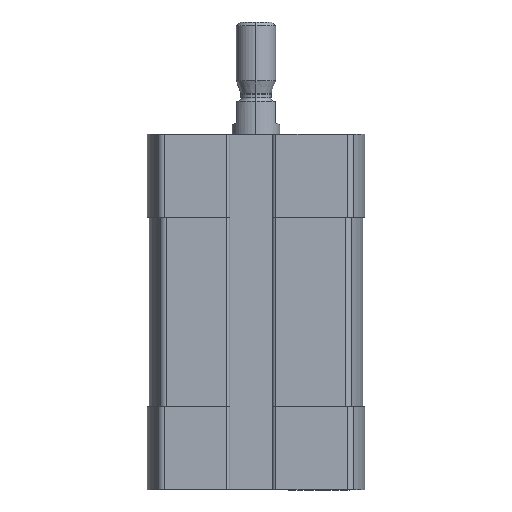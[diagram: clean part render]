
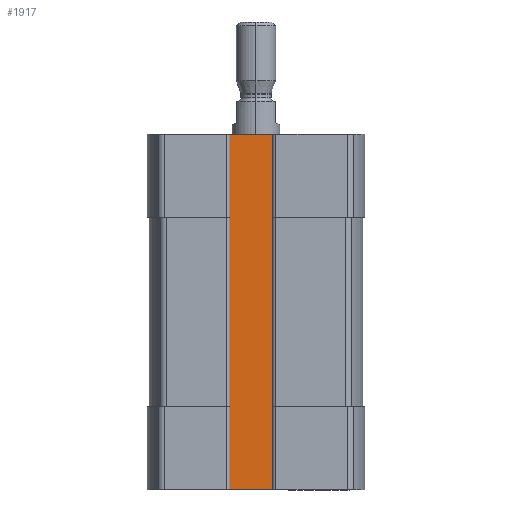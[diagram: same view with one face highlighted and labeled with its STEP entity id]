
A CAD part, left-side view. The second image highlights one B-rep face of the part: STEP entity #1917.
In plain terms, the highlighted planar face has unit normal (-1, 0, 0).
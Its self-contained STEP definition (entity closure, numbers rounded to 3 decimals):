
#175 = LINE ( 'NONE', #5934, #2240 ) ;
#192 = EDGE_CURVE ( 'NONE', #6601, #11141, #7257, .T. ) ;
#326 = DIRECTION ( 'NONE',  ( -1., 0., 0. ) ) ;
#640 = FACE_OUTER_BOUND ( 'NONE', #1640, .T. ) ;
#1255 = ORIENTED_EDGE ( 'NONE', *, *, #2703, .T. ) ;
#1640 = EDGE_LOOP ( 'NONE', ( #6203, #1255, #3264, #4898 ) ) ;
#1917 = ADVANCED_FACE ( 'NONE', ( #640 ), #10102, .T. ) ;
#2059 = CARTESIAN_POINT ( 'NONE',  ( -8.3, 3.6, -45. ) ) ;
#2240 = VECTOR ( 'NONE', #10429, 1000. ) ;
#2416 = DIRECTION ( 'NONE',  ( 0., -1., 0. ) ) ;
#2703 = EDGE_CURVE ( 'NONE', #11141, #10928, #175, .T. ) ;
#2894 = DIRECTION ( 'NONE',  ( 0., -1., 0. ) ) ;
#3207 = CARTESIAN_POINT ( 'NONE',  ( -8.3, -2.4, -45. ) ) ;
#3264 = ORIENTED_EDGE ( 'NONE', *, *, #5054, .F. ) ;
#4893 = VECTOR ( 'NONE', #2416, 1000. ) ;
#4898 = ORIENTED_EDGE ( 'NONE', *, *, #10084, .T. ) ;
#5054 = EDGE_CURVE ( 'NONE', #10015, #10928, #5687, .T. ) ;
#5687 = LINE ( 'NONE', #7290, #7209 ) ;
#5921 = DIRECTION ( 'NONE',  ( 0., 0., -1. ) ) ;
#5934 = CARTESIAN_POINT ( 'NONE',  ( -8.3, -2.4, -45. ) ) ;
#5947 = LINE ( 'NONE', #11376, #10458 ) ;
#6203 = ORIENTED_EDGE ( 'NONE', *, *, #192, .T. ) ;
#6512 = DIRECTION ( 'NONE',  ( 0., 0., 1. ) ) ;
#6601 = VERTEX_POINT ( 'NONE', #7431 ) ;
#6780 = CARTESIAN_POINT ( 'NONE',  ( -8.3, 3.6, 0. ) ) ;
#7209 = VECTOR ( 'NONE', #2894, 1000. ) ;
#7257 = LINE ( 'NONE', #11387, #4893 ) ;
#7290 = CARTESIAN_POINT ( 'NONE',  ( -8.3, -2.5, 0. ) ) ;
#7431 = CARTESIAN_POINT ( 'NONE',  ( -8.3, 3.6, -45. ) ) ;
#7686 = AXIS2_PLACEMENT_3D ( 'NONE', #2059, #326, #6512 ) ;
#9135 = CARTESIAN_POINT ( 'NONE',  ( -8.3, -2.4, 0. ) ) ;
#10015 = VERTEX_POINT ( 'NONE', #6780 ) ;
#10084 = EDGE_CURVE ( 'NONE', #10015, #6601, #5947, .T. ) ;
#10102 = PLANE ( 'NONE',  #7686 ) ;
#10429 = DIRECTION ( 'NONE',  ( 0., 0., 1. ) ) ;
#10458 = VECTOR ( 'NONE', #5921, 1000. ) ;
#10928 = VERTEX_POINT ( 'NONE', #9135 ) ;
#11141 = VERTEX_POINT ( 'NONE', #3207 ) ;
#11376 = CARTESIAN_POINT ( 'NONE',  ( -8.3, 3.6, -45. ) ) ;
#11387 = CARTESIAN_POINT ( 'NONE',  ( -8.3, -2.5, -45. ) ) ;
